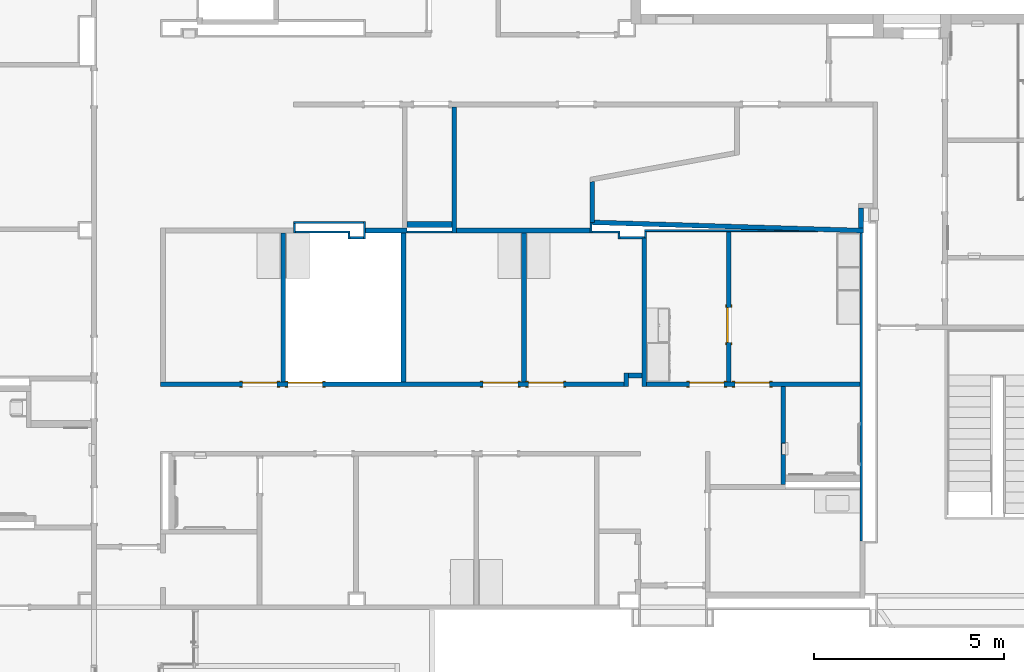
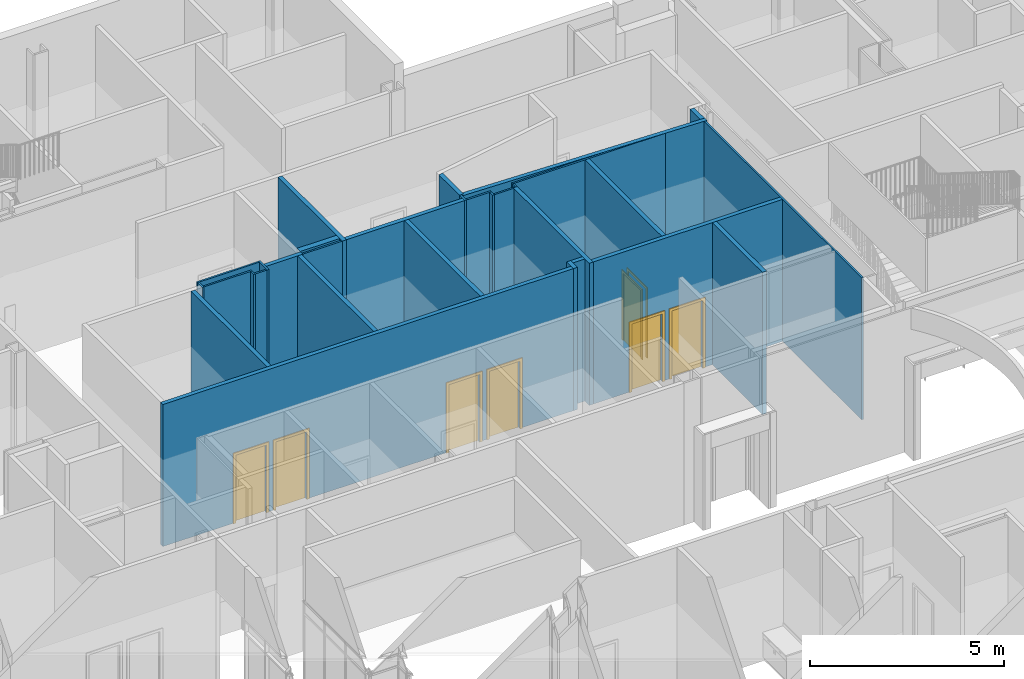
# One storey, part 33 of 82: 31 walls, 7 doors, 8 openings.
"""IFC2X3 building model written with IfcOpenShell, lengths in metres."""

from ifc_helpers import new_model, entity, si_unit, converted_unit, frame, frame_2d, origin, origin_2d_with_axis, place, context, project, spatial, polyline, rectangle, outline, extrude, clip, bounded_halfspace, source, transform, mapped, material, layer, layer_set, layer_usage, type_object, type_shapes, element, fill, save


model = new_model("IFC2X3")

# Units and contexts
model_context = context("Model", 3, precision=1e-09, world=origin())
plan_context = context("Plan", 3, precision=1e-09, world=origin())
ifc_project = project(units=[si_unit("LENGTHUNIT", "METRE"), si_unit("AREAUNIT", "SQUARE_METRE"), si_unit("VOLUMEUNIT", "CUBIC_METRE"), converted_unit("PLANEANGLEUNIT", "DEGREE", entity("IfcRatioMeasure", 0.01745329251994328), si_unit("PLANEANGLEUNIT", "RADIAN"), dimensions=[0, 0, 0, 0, 0, 0, 0]), si_unit("TIMEUNIT", "SECOND")], contexts=[model_context, plan_context])

# Site, building, storey
site_placement = place(None, origin())
site = spatial("IfcSite", under=ifc_project, at=site_placement, Name="Default", CompositionType="ELEMENT")
building_placement = place(site_placement, origin())
building = spatial("IfcBuilding", under=site, at=building_placement, CompositionType="ELEMENT")
storey_placement = place(building_placement, origin())
storey = spatial("IfcBuildingStorey", under=building, at=storey_placement, Name="First Floor", CompositionType="ELEMENT", Elevation=-3.531500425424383e-13)

# Wall, openings, doors
ifc_material_1 = material(Name="Plasterboard")
ifc_layer_1 = layer(ifc_material_1, 0.016)
ifc_material_2 = material(Name="Metal - Stud Layer")
ifc_layer_2 = layer(ifc_material_2, 0.092)
ifc_layer_3 = layer(ifc_material_1, 0.016)
ifc_layer_set_1 = layer_set([ifc_layer_1, ifc_layer_2, ifc_layer_3], Name="Basic Wall:Interior - Partition (92mm Stud)")
ifc_layer_usage_1 = layer_usage(ifc_layer_set_1, "AXIS2", "NEGATIVE", 0.062)
wall_1_placement = place(storey_placement, frame((-26.51400084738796, 40.72199999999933, 0.0), z_axis=(0.0, 0.0, 1.0), x_axis=(-1.0, 0.0, 0.0)))
wall_1 = element("IfcWallStandardCase", 1, at=wall_1_placement, inside=storey, material=ifc_layer_usage_1, Name="Basic Wall:Interior - Partition (92mm Stud)", ObjectType="Basic Wall:Interior - Partition (92mm Stud)", context=model_context, shape_type="SweptSolid", body=[
    extrude(rectangle(XDim=12.20599915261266, YDim=0.1240000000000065, at=frame_2d((6.102999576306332, 0.0), x_axis=(-1.0, 0.0))), origin(), (0.0, 0.0, 1.0), 4.46800000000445),
])
opening_1_placement = place(wall_1_placement, frame((2.511999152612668, 0.06199999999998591, 0.0)))
opening_1 = element("IfcOpeningElement", 2, at=opening_1_placement, cuts=wall_1, Name="M_Single-Flush:0915 x 2134mm:0915 x 2134mm:1", ObjectType="Opening", context=model_context, shape_type="SweptSolid", body=[
    extrude(rectangle(XDim=0.9149999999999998, YDim=2.134, at=frame_2d((1.067, 0.4574999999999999), x_axis=(0.0, -1.0))), frame((0.0, 0.0, 0.0), z_axis=(0.0, -1.0, 0.0), x_axis=(0.0, 0.0, 1.0)), (0.0, 0.0, 1.0), 0.124),
])
opening_2_placement = place(wall_1_placement, frame((3.710999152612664, 0.06199999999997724, 0.0)))
opening_2 = element("IfcOpeningElement", 3, at=opening_2_placement, cuts=wall_1, Name="M_Single-Flush:0915 x 2134mm:0915 x 2134mm:1", ObjectType="Opening", context=model_context, shape_type="SweptSolid", body=[
    extrude(rectangle(XDim=0.9149999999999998, YDim=2.134, at=frame_2d((1.067, 0.4575), x_axis=(0.0, 1.0))), frame((0.0, 0.0, 0.0), z_axis=(0.0, -1.0, 0.0), x_axis=(0.0, 0.0, 1.0)), (0.0, 0.0, 1.0), 0.124),
])
opening_3_placement = place(wall_1_placement, frame((10.05099915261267, 0.06199999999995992, 0.0)))
opening_3 = element("IfcOpeningElement", 4, at=opening_3_placement, cuts=wall_1, Name="M_Single-Flush:0915 x 2134mm:0915 x 2134mm:1", ObjectType="Opening", context=model_context, shape_type="SweptSolid", body=[
    extrude(rectangle(XDim=0.9149999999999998, YDim=2.134, at=frame_2d((1.067, 0.4575), x_axis=(0.0, 1.0))), frame((0.0, 0.0, 0.0), z_axis=(0.0, -1.0, 0.0), x_axis=(0.0, 0.0, 1.0)), (0.0, 0.0, 1.0), 0.124),
])
opening_4_placement = place(wall_1_placement, frame((8.851999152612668, 0.06199999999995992, 0.0)))
opening_4 = element("IfcOpeningElement", 5, at=opening_4_placement, cuts=wall_1, Name="M_Single-Flush:0915 x 2134mm:0915 x 2134mm:1", ObjectType="Opening", context=model_context, shape_type="SweptSolid", body=[
    extrude(rectangle(XDim=0.9149999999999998, YDim=2.134, at=frame_2d((1.067, 0.4574999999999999), x_axis=(0.0, -1.0))), frame((0.0, 0.0, 0.0), z_axis=(0.0, -1.0, 0.0), x_axis=(0.0, 0.0, 1.0)), (0.0, 0.0, 1.0), 0.124),
])
door_style_1 = type_object("IfcDoorStyle", Name="0915 x 2134mm", ConstructionType="NOTDEFINED", OperationType="SINGLE_SWING_RIGHT", ParameterTakesPrecedence=False, Sizeable=False)
shared_shape_1 = source(origin(), model_context, "Body", "SweptSolid", [
    extrude(outline(polyline([(-0.5335, -1.123999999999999), (0.5334999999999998, -1.123999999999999), (0.5334999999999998, 1.086), (0.4574999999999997, 1.086), (0.4574999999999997, -1.048000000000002), (-0.4574999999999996, -1.048000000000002), (-0.4574999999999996, 1.086), (-0.5335, 1.086), (-0.5335, -1.123999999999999)])), frame((0.4575000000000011, 0.1239999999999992, 1.086), z_axis=(0.0, 1.0, 0.0), x_axis=(1.0, 0.0, 0.0)), (0.0, 0.0, 1.0), 0.02499999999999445),
    extrude(outline(polyline([(-1.123999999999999, -0.5334999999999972), (1.085999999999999, -0.5334999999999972), (1.085999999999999, -0.4575000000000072), (-1.048, -0.4575000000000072), (-1.048, 0.4575000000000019), (1.085999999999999, 0.4575000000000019), (1.085999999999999, 0.5335000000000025), (-1.123999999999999, 0.5335000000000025), (-1.123999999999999, -0.5334999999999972)])), frame((0.4575000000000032, -0.02500000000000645, 1.085999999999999), z_axis=(0.0, 1.0, 0.0), x_axis=(0.0, 0.0, -1.0)), (0.0, 0.0, 1.0), 0.02500000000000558),
    extrude(rectangle(XDim=0.051, YDim=0.9149999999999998, at=origin_2d_with_axis()), frame((0.4575000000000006, 0.09849999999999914, 0.0), z_axis=(0.0, 0.0, 1.0), x_axis=(0.0, 1.0, 0.0)), (0.0, 0.0, 1.0), 2.133999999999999),
])
type_shapes(door_style_1, [shared_shape_1])
door_1_placement = place(opening_3_placement, frame((0.0, 0.0, 0.0), z_axis=(0.0, 0.0, 1.0), x_axis=(-1.0, 0.0, 0.0)))
door_1 = element("IfcDoor", 6, at=door_1_placement, inside=storey, type_object=door_style_1, Name="M_Single-Flush:0915 x 2134mm:0915 x 2134mm", ObjectType="0915 x 2134mm", OverallHeight=2.134, OverallWidth=0.9149999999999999, context=model_context, shape_type="MappedRepresentation", body=[
    mapped(shared_shape_1, transform((0.0, 0.0, 0.0), scale=1.0)),
])
fill(opening_3, door_1)
door_2_placement = place(opening_2_placement, frame((0.0, 0.0, 0.0), z_axis=(0.0, 0.0, 1.0), x_axis=(-1.0, 0.0, 0.0)))
door_2 = element("IfcDoor", 7, at=door_2_placement, inside=storey, type_object=door_style_1, Name="M_Single-Flush:0915 x 2134mm:0915 x 2134mm", ObjectType="0915 x 2134mm", OverallHeight=2.134, OverallWidth=0.9149999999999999, context=model_context, shape_type="MappedRepresentation", body=[
    mapped(shared_shape_1, transform((0.0, 0.0, 0.0), scale=1.0)),
])
fill(opening_2, door_2)
door_style_2 = type_object("IfcDoorStyle", Name="0915 x 2134mm", ConstructionType="NOTDEFINED", OperationType="SINGLE_SWING_LEFT", ParameterTakesPrecedence=False, Sizeable=False)
shared_shape_2 = source(origin(), model_context, "Body", "SweptSolid", [
    extrude(outline(polyline([(-0.5335, -1.123999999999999), (0.5334999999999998, -1.123999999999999), (0.5334999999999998, 1.086), (0.4574999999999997, 1.086), (0.4574999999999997, -1.048000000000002), (-0.4574999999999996, -1.048000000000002), (-0.4574999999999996, 1.086), (-0.5335, 1.086), (-0.5335, -1.123999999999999)])), frame((0.4575000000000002, 0.1489999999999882, 1.086), z_axis=(0.0, -1.0, 0.0), x_axis=(-1.0, 0.0, 0.0)), (0.0, 0.0, 1.0), 0.02499999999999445),
    extrude(outline(polyline([(-1.123999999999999, -0.5334999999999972), (1.085999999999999, -0.5334999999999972), (1.085999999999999, -0.4575000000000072), (-1.048, -0.4575000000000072), (-1.048, 0.4575000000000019), (1.085999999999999, 0.4575000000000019), (1.085999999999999, 0.5335000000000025), (-1.123999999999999, 0.5335000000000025), (-1.123999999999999, -0.5334999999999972)])), frame((0.4574999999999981, 0.0, 1.085999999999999), z_axis=(0.0, -1.0, 0.0), x_axis=(0.0, 0.0, -1.0)), (0.0, 0.0, 1.0), 0.02500000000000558),
    extrude(rectangle(XDim=0.9149999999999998, YDim=0.051, at=origin_2d_with_axis()), frame((0.4575000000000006, 0.09849999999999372, 0.0)), (0.0, 0.0, 1.0), 2.133999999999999),
])
type_shapes(door_style_2, [shared_shape_2])
door_3_placement = place(opening_1_placement, frame((0.0, 0.0, 0.0), z_axis=(0.0, 0.0, 1.0), x_axis=(-1.0, 0.0, 0.0)))
door_3 = element("IfcDoor", 8, at=door_3_placement, inside=storey, type_object=door_style_2, Name="M_Single-Flush:0915 x 2134mm:0915 x 2134mm", ObjectType="0915 x 2134mm", OverallHeight=2.134, OverallWidth=0.9149999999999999, context=model_context, shape_type="MappedRepresentation", body=[
    mapped(shared_shape_2, transform((0.0, 0.0, 0.0), scale=1.0)),
])
fill(opening_1, door_3)
door_4_placement = place(opening_4_placement, frame((0.0, 0.0, 0.0), z_axis=(0.0, 0.0, 1.0), x_axis=(-1.0, 0.0, 0.0)))
door_4 = element("IfcDoor", 9, at=door_4_placement, inside=storey, type_object=door_style_2, Name="M_Single-Flush:0915 x 2134mm:0915 x 2134mm", ObjectType="0915 x 2134mm", OverallHeight=2.134, OverallWidth=0.9149999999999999, context=model_context, shape_type="MappedRepresentation", body=[
    mapped(shared_shape_2, transform((0.0, 0.0, 0.0), scale=1.0)),
])
fill(opening_4, door_4)

wall_2_placement = place(storey_placement, frame((-20.2900000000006, 40.72199999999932, 0.0), z_axis=(0.0, 0.0, 1.0), x_axis=(-1.0, 0.0, 0.0)))
wall_2 = element("IfcWallStandardCase", 10, at=wall_2_placement, inside=storey, material=ifc_layer_usage_1, Name="Basic Wall:Interior - Partition (92mm Stud)", ObjectType="Basic Wall:Interior - Partition (92mm Stud)", context=model_context, shape_type="SweptSolid", body=[
    extrude(rectangle(XDim=5.626000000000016, YDim=0.1240000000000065, at=frame_2d((2.813000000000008, 0.0), x_axis=(-1.0, 0.0))), origin(), (0.0, 0.0, 1.0), 4.468000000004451),
])
opening_5_placement = place(wall_2_placement, frame((3.300000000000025, 0.06199999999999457, 0.0)))
opening_5 = element("IfcOpeningElement", 11, at=opening_5_placement, cuts=wall_2, Name="M_Single-Flush:0915 x 2134mm:0915 x 2134mm:1", ObjectType="Opening", context=model_context, shape_type="SweptSolid", body=[
    extrude(rectangle(XDim=0.9149999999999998, YDim=2.134, at=frame_2d((1.067, 0.4574999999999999), x_axis=(0.0, -1.0))), frame((0.0, 0.0, 0.0), z_axis=(0.0, -1.0, 0.0), x_axis=(0.0, 0.0, 1.0)), (0.0, 0.0, 1.0), 0.124),
])
opening_6_placement = place(wall_2_placement, frame((4.499000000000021, 0.06199999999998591, 0.0)))
opening_6 = element("IfcOpeningElement", 12, at=opening_6_placement, cuts=wall_2, Name="M_Single-Flush:0915 x 2134mm:0915 x 2134mm:1", ObjectType="Opening", context=model_context, shape_type="SweptSolid", body=[
    extrude(rectangle(XDim=0.9149999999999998, YDim=2.134, at=frame_2d((1.067, 0.4575), x_axis=(0.0, 1.0))), frame((0.0, 0.0, 0.0), z_axis=(0.0, -1.0, 0.0), x_axis=(0.0, 0.0, 1.0)), (0.0, 0.0, 1.0), 0.124),
])
door_5_placement = place(opening_6_placement, frame((0.0, 0.0, 0.0), z_axis=(0.0, 0.0, 1.0), x_axis=(-1.0, 0.0, 0.0)))
door_5 = element("IfcDoor", 13, at=door_5_placement, inside=storey, type_object=door_style_1, Name="M_Single-Flush:0915 x 2134mm:0915 x 2134mm", ObjectType="0915 x 2134mm", OverallHeight=2.134, OverallWidth=0.9149999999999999, context=model_context, shape_type="MappedRepresentation", body=[
    mapped(shared_shape_1, transform((0.0, 0.0, 0.0), scale=1.0)),
])
fill(opening_6, door_5)
door_6_placement = place(opening_5_placement, frame((0.0, 0.0, 0.0), z_axis=(0.0, 0.0, 1.0), x_axis=(-1.0, 0.0, 0.0)))
door_6 = element("IfcDoor", 14, at=door_6_placement, inside=storey, type_object=door_style_2, Name="M_Single-Flush:0915 x 2134mm:0915 x 2134mm", ObjectType="0915 x 2134mm", OverallHeight=2.134, OverallWidth=0.9149999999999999, context=model_context, shape_type="MappedRepresentation", body=[
    mapped(shared_shape_2, transform((0.0, 0.0, 0.0), scale=1.0)),
])
fill(opening_5, door_6)

# Walls
ifc_layer_4 = layer(ifc_material_2, 0.038)
ifc_layer_5 = layer(ifc_material_1, 0.016)
ifc_layer_set_2 = layer_set([ifc_layer_4, ifc_layer_5], Name="Basic Wall:Interior - Furring (38 mm Stud)")
ifc_layer_usage_2 = layer_usage(ifc_layer_set_2, "AXIS2", "NEGATIVE", 0.027)
wall_3_placement = place(storey_placement, frame((-20.26300000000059, 44.70594269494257, 0.0), z_axis=(0.0, 0.0, 1.0), x_axis=(0.0, -1.0, 0.0)))
element("IfcWallStandardCase", 15, at=wall_3_placement, inside=storey, material=ifc_layer_usage_2, Name="Basic Wall:Interior - Furring (38 mm Stud)", ObjectType="Basic Wall:Interior - Furring (38 mm Stud)", context=model_context, shape_type="SweptSolid", body=[
    extrude(outline(polyline([(8.116942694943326, -0.02700000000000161), (8.116942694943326, 0.02699999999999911), (0.001641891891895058, 0.0269999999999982), (0.0, -0.02700000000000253), (3.921942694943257, -0.02700000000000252), (4.045942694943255, -0.02700000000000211), (6.375942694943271, -0.02700000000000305), (6.559942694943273, -0.02700000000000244), (6.701942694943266, -0.02700000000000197), (6.755942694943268, -0.02700000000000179), (8.116942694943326, -0.02700000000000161)])), origin(), (0.0, 0.0, 1.0), 4.46800000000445),
])
wall_4_placement = place(storey_placement, frame((-27.35311573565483, 44.98272824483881, 0.0), z_axis=(0.0, 0.0, 1.0), x_axis=(0.9995380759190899, -0.03039136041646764, 0.0)))
element("IfcWallStandardCase", 16, at=wall_4_placement, inside=storey, material=ifc_layer_usage_1, Name="Basic Wall:Interior - Partition (92mm Stud)", ObjectType="Basic Wall:Interior - Partition (92mm Stud)", context=model_context, shape_type="SweptSolid", body=[
    extrude(outline(polyline([(7.153304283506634, -0.06200000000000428), (7.149534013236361, 0.06199999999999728), (7.025476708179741, 0.06199999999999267), (0.06626207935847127, 0.06199999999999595), (0.06808992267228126, 0.00188426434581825), (-0.001910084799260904, 0.0008205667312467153), (0.0, -0.06200000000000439), (4.170819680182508, -0.06200000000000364), (5.947640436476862, -0.06200000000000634), (7.06826500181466, -0.06200000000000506), (7.122289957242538, -0.06200000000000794), (7.153304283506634, -0.06200000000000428)])), origin(), (0.0, 0.0, 1.0), 4.468000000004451),
])
wall_5_placement = place(storey_placement, frame((-25.97800000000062, 40.65999999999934, 0.0), z_axis=(0.0, 0.0, 1.0), x_axis=(0.0, 1.0, 0.0)))
element("IfcWallStandardCase", 17, at=wall_5_placement, inside=storey, material=ifc_layer_usage_1, Name="Basic Wall:Interior - Partition (92mm Stud)", ObjectType="Basic Wall:Interior - Partition (92mm Stud)", context=model_context, shape_type="SweptSolid", body=[
    extrude(rectangle(XDim=3.916999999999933, YDim=0.1239999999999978, at=frame_2d((1.958499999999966, 0.0), x_axis=(-1.0, 0.0))), origin(), (0.0, 0.0, 1.0), 4.46800000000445),
])
wall_6_placement = place(storey_placement, frame((-30.92500000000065, 44.76799999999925, 0.0)))
element("IfcWallStandardCase", 18, at=wall_6_placement, inside=storey, material=ifc_layer_usage_1, Name="Basic Wall:Interior - Partition (92mm Stud)", ObjectType="Basic Wall:Interior - Partition (92mm Stud)", context=model_context, shape_type="SweptSolid", body=[
    extrude(rectangle(XDim=3.515999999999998, YDim=0.1240000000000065, at=frame_2d((1.757999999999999, 0.0), x_axis=(-1.0, 0.0))), origin(), (0.0, 0.0, 1.0), 4.46800000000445),
])

# Wall, opening
wall_7_placement = place(storey_placement, frame((-22.31800000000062, 38.07399999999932, 0.0), z_axis=(0.0, 0.0, 1.0), x_axis=(0.0, 1.0, 0.0)))
wall_7 = element("IfcWallStandardCase", 19, at=wall_7_placement, inside=storey, material=ifc_layer_usage_1, Name="Basic Wall:Interior - Partition (92mm Stud)", ObjectType="Basic Wall:Interior - Partition (92mm Stud)", context=model_context, shape_type="SweptSolid", body=[
    extrude(rectangle(XDim=2.58600000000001, YDim=0.1239999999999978, at=frame_2d((1.293000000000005, 0.0), x_axis=(-1.0, 0.0))), origin(), (0.0, 0.0, 1.0), 4.46800000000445),
])
opening_7_placement = place(wall_7_placement, origin())
element("IfcOpeningElement", 20, at=opening_7_placement, cuts=wall_7, ObjectType="Opening", context=model_context, shape_type="SweptSolid", body=[
    extrude(rectangle(XDim=1.362075, YDim=0.2984499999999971, at=origin_2d_with_axis()), frame((0.9411000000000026, -0.1255000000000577, 1.041399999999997), z_axis=(0.0, 1.0, 0.0), x_axis=(0.0, 0.0, -1.0)), (0.0, 0.0, 1.0), 0.1524000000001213),
])

# Walls
wall_8_placement = place(storey_placement, frame((-30.98700000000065, 48.02599999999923, 0.0), z_axis=(0.0, 0.0, 1.0), x_axis=(0.0, -1.0, 0.0)))
element("IfcWallStandardCase", 21, at=wall_8_placement, inside=storey, material=ifc_layer_usage_1, Name="Basic Wall:Interior - Partition (92mm Stud)", ObjectType="Basic Wall:Interior - Partition (92mm Stud)", context=model_context, shape_type="SweptSolid", body=[
    extrude(rectangle(XDim=3.319999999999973, YDim=0.1239999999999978, at=frame_2d((1.659999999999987, 0.0), x_axis=(-1.0, 0.0))), origin(), (0.0, 0.0, 1.0), 4.468000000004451),
])
ifc_layer_usage_3 = layer_usage(ifc_layer_set_2, "AXIS2", "POSITIVE", -0.027)
wall_9_placement = place(storey_placement, frame((-31.04900000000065, 44.73299999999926, 0.0), z_axis=(0.0, 0.0, 1.0), x_axis=(-1.0, 0.0, 0.0)))
element("IfcWallStandardCase", 22, at=wall_9_placement, inside=storey, material=ifc_layer_usage_3, Name="Basic Wall:Interior - Furring (38 mm Stud)", ObjectType="Basic Wall:Interior - Furring (38 mm Stud)", context=model_context, shape_type="SweptSolid", body=[
    extrude(rectangle(XDim=1.176000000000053, YDim=0.05400000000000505, at=frame_2d((0.5880000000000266, 0.0), x_axis=(-1.0, 0.0))), origin(), (0.0, 0.0, 1.0), 4.46800000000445),
])
wall_10_placement = place(storey_placement, frame((-33.32000000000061, 44.76799999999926, 0.0)))
element("IfcWallStandardCase", 23, at=wall_10_placement, inside=storey, material=ifc_layer_usage_1, Name="Basic Wall:Interior - Partition (92mm Stud)", ObjectType="Basic Wall:Interior - Partition (92mm Stud)", context=model_context, shape_type="SweptSolid", body=[
    extrude(rectangle(XDim=1.094999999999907, YDim=0.1240000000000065, at=frame_2d((0.5474999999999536, 0.0), x_axis=(-1.0, 0.0))), origin(), (0.0, 0.0, 1.0), 4.468000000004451),
])
wall_11_placement = place(storey_placement, frame((-27.34700000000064, 46.06502903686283, 0.0), z_axis=(0.0, 0.0, 1.0), x_axis=(0.0, -1.0, 0.0)))
element("IfcWallStandardCase", 24, at=wall_11_placement, inside=storey, material=ifc_layer_usage_1, Name="Basic Wall:Interior - Partition (92mm Stud)", ObjectType="Basic Wall:Interior - Partition (92mm Stud)", context=model_context, shape_type="SweptSolid", body=[
    extrude(outline(polyline([(1.082486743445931, -0.06200000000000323), (1.082486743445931, 0.0619999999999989), (1.022343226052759, 0.0619999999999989), (0.0, 0.0619999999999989), (0.02278215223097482, -0.06200000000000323), (1.082486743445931, -0.06200000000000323)])), origin(), (0.0, 0.0, 1.0), 4.468000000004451),
])
wall_12_placement = place(storey_placement, frame((-27.38200000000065, 44.98360648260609, 0.0), z_axis=(0.0, 0.0, 1.0), x_axis=(0.0, -1.0, 0.0)))
element("IfcWallStandardCase", 25, at=wall_12_placement, inside=storey, material=ifc_layer_usage_2, Name="Basic Wall:Interior - Furring (38 mm Stud)", ObjectType="Basic Wall:Interior - Furring (38 mm Stud)", context=model_context, shape_type="SweptSolid", body=[
    extrude(rectangle(XDim=0.277606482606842, YDim=0.05399999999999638, at=frame_2d((0.138803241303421, 0.0), x_axis=(-1.0, 0.0))), origin(), (0.0, 0.0, 1.0), 4.468000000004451),
])
wall_13_placement = place(storey_placement, frame((-25.94300000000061, 44.57699999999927, 0.0), z_axis=(0.0, 0.0, 1.0), x_axis=(0.0, 1.0, 0.0)))
element("IfcWallStandardCase", 26, at=wall_13_placement, inside=storey, material=ifc_layer_usage_2, Name="Basic Wall:Interior - Furring (38 mm Stud)", ObjectType="Basic Wall:Interior - Furring (38 mm Stud)", context=model_context, shape_type="SweptSolid", body=[
    extrude(rectangle(XDim=0.1630000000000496, YDim=0.05399999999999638, at=frame_2d((0.08150000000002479, 0.0), x_axis=(-1.0, 0.0))), origin(), (0.0, 0.0, 1.0), 4.468000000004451),
])
wall_14_placement = place(storey_placement, frame((-20.26700000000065, 45.35999999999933, 0.0), z_axis=(0.0, 0.0, 1.0), x_axis=(0.0, -1.0, 0.0)))
element("IfcWallStandardCase", 27, at=wall_14_placement, inside=storey, material=ifc_layer_usage_1, Name="Basic Wall:Interior - Partition (92mm Stud)", ObjectType="Basic Wall:Interior - Partition (92mm Stud)", context=model_context, shape_type="SweptSolid", body=[
    extrude(outline(polyline([(0.5288141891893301, -0.06200000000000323), (0.532584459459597, 0.0619999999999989), (0.0, 0.0619999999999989), (0.0, -0.06200000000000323), (0.5288141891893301, -0.06200000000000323)])), origin(), (0.0, 0.0, 1.0), 4.46800000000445),
])
wall_15_placement = place(storey_placement, frame((-21.41010692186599, 44.7669999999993, 0.0), z_axis=(0.0, 0.0, 1.0), x_axis=(-1.0, 0.0, 0.0)))
element("IfcWallStandardCase", 28, at=wall_15_placement, inside=storey, material=ifc_layer_usage_3, Name="Basic Wall:Interior - Furring (38 mm Stud)", ObjectType="Basic Wall:Interior - Furring (38 mm Stud)", context=model_context, shape_type="Clipping", body=[
    clip(extrude(rectangle(XDim=4.559893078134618, YDim=0.05400000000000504, at=frame_2d((2.279946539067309, 0.0), x_axis=(-1.0, 0.0))), origin(), (0.0, 0.0, 1.0), 4.46800000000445), bounded_halfspace(frame((1.775999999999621, -0.02699999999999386, 0.0), z_axis=(0.0303913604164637, 0.99953807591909, 0.0), x_axis=(-0.99953807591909, 0.0303913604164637, 0.0)), True, frame((1.775999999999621, -0.02699999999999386, 0.0), z_axis=(0.0303913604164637, 0.99953807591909, 0.0), x_axis=(-0.99953807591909, 0.0303913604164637, 0.0)), polyline([(0.0, 0.0), (1.776820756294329, 0.0), (1.776820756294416, 4.46800000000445), (0.0, 4.46800000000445), (0.0, 0.0)]))),
])
wall_16_placement = place(storey_placement, frame((-26.61600000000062, 44.57699999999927, 0.0)))
element("IfcWallStandardCase", 29, at=wall_16_placement, inside=storey, material=ifc_layer_usage_2, Name="Basic Wall:Interior - Furring (38 mm Stud)", ObjectType="Basic Wall:Interior - Furring (38 mm Stud)", context=model_context, shape_type="SweptSolid", body=[
    extrude(outline(polyline([(0.575999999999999, -0.02699999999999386), (0.575999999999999, 0.0), (0.6460000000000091, 0.0), (0.6460000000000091, 0.02700000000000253), (0.0, 0.02700000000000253), (0.0, -0.02699999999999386), (0.575999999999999, -0.02699999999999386)])), origin(), (0.0, 0.0, 1.0), 4.468000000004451),
])
wall_17_placement = place(storey_placement, frame((-35.18800000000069, 44.95599999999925, 0.0), z_axis=(0.0, 0.0, 1.0), x_axis=(0.0, -1.0, 0.0)))
element("IfcWallStandardCase", 30, at=wall_17_placement, inside=storey, material=ifc_layer_usage_2, Name="Basic Wall:Interior - Furring (38 mm Stud)", ObjectType="Basic Wall:Interior - Furring (38 mm Stud)", context=model_context, shape_type="SweptSolid", body=[
    extrude(rectangle(XDim=0.2499999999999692, YDim=0.05399999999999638, at=frame_2d((0.1249999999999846, 0.0), x_axis=(-1.0, 0.0))), origin(), (0.0, 0.0, 1.0), 4.46800000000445),
])
wall_18_placement = place(storey_placement, frame((-35.16100000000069, 44.73299999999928, 0.0)))
element("IfcWallStandardCase", 31, at=wall_18_placement, inside=storey, material=ifc_layer_usage_2, Name="Basic Wall:Interior - Furring (38 mm Stud)", ObjectType="Basic Wall:Interior - Furring (38 mm Stud)", context=model_context, shape_type="SweptSolid", body=[
    extrude(rectangle(XDim=1.435000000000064, YDim=0.05400000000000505, at=frame_2d((0.7175000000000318, 0.0), x_axis=(-1.0, 0.0))), origin(), (0.0, 0.0, 1.0), 4.46800000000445),
])
wall_19_placement = place(storey_placement, frame((-32.31800000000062, 40.78399999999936, 0.0), z_axis=(0.0, 0.0, 1.0), x_axis=(0.0, 1.0, 0.0)))
element("IfcWallStandardCase", 32, at=wall_19_placement, inside=storey, material=ifc_layer_usage_1, Name="Basic Wall:Interior - Partition (92mm Stud)", ObjectType="Basic Wall:Interior - Partition (92mm Stud)", context=model_context, shape_type="SweptSolid", body=[
    extrude(rectangle(XDim=3.921999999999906, YDim=0.1239999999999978, at=frame_2d((1.960999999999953, 0.0), x_axis=(-1.0, 0.0))), origin(), (0.0, 0.0, 1.0), 4.46800000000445),
])
wall_20_placement = place(storey_placement, frame((-33.34700000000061, 44.54999999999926, 0.0), z_axis=(0.0, 0.0, 1.0), x_axis=(0.0, 1.0, 0.0)))
element("IfcWallStandardCase", 33, at=wall_20_placement, inside=storey, material=ifc_layer_usage_2, Name="Basic Wall:Interior - Furring (38 mm Stud)", ObjectType="Basic Wall:Interior - Furring (38 mm Stud)", context=model_context, shape_type="SweptSolid", body=[
    extrude(rectangle(XDim=0.459999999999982, YDim=0.05399999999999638, at=frame_2d((0.229999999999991, 0.0), x_axis=(-1.0, 0.0))), origin(), (0.0, 0.0, 1.0), 4.468000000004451),
])

# Wall, opening, door
wall_21_placement = place(storey_placement, frame((-23.75200000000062, 44.73999999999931, 0.0), z_axis=(0.0, 0.0, 1.0), x_axis=(0.0, -1.0, 0.0)))
wall_21 = element("IfcWallStandardCase", 34, at=wall_21_placement, inside=storey, material=ifc_layer_usage_1, Name="Basic Wall:Interior - Partition (92mm Stud)", ObjectType="Basic Wall:Interior - Partition (92mm Stud)", context=model_context, shape_type="SweptSolid", body=[
    extrude(rectangle(XDim=3.955999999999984, YDim=0.1239999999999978, at=frame_2d((1.977999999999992, 0.0), x_axis=(-1.0, 0.0))), origin(), (0.0, 0.0, 1.0), 4.46800000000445),
])
opening_8_placement = place(wall_21_placement, frame((2.915999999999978, 0.06199999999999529, 0.0)))
opening_8 = element("IfcOpeningElement", 35, at=opening_8_placement, cuts=wall_21, Name="M_Single-Flush:0915 x 2134mm:0915 x 2134mm:1", ObjectType="Opening", context=model_context, shape_type="SweptSolid", body=[
    extrude(rectangle(XDim=0.9149999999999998, YDim=2.134, at=frame_2d((1.067, 0.4574999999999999), x_axis=(0.0, -1.0))), frame((0.0, 0.0, 0.0), z_axis=(0.0, -1.0, 0.0), x_axis=(0.0, 0.0, 1.0)), (0.0, 0.0, 1.0), 0.124),
])
door_7_placement = place(opening_8_placement, frame((0.0, 0.0, 0.0), z_axis=(0.0, 0.0, 1.0), x_axis=(-1.0, 0.0, 0.0)))
door_7 = element("IfcDoor", 36, at=door_7_placement, inside=storey, type_object=door_style_2, Name="M_Single-Flush:0915 x 2134mm:0915 x 2134mm", ObjectType="0915 x 2134mm", OverallHeight=2.134, OverallWidth=0.9149999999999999, context=model_context, shape_type="MappedRepresentation", body=[
    mapped(shared_shape_2, transform((0.0, 0.0, 0.0), scale=1.0)),
])
fill(opening_8, door_7)

# Walls
wall_22_placement = place(storey_placement, frame((-33.37400000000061, 44.98299999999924, 0.0), z_axis=(0.0, 0.0, 1.0), x_axis=(-1.0, 0.0, 0.0)))
element("IfcWallStandardCase", 37, at=wall_22_placement, inside=storey, material=ifc_layer_usage_2, Name="Basic Wall:Interior - Furring (38 mm Stud)", ObjectType="Basic Wall:Interior - Furring (38 mm Stud)", context=model_context, shape_type="SweptSolid", body=[
    extrude(rectangle(XDim=1.841000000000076, YDim=0.05400000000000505, at=frame_2d((0.9205000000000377, 0.0), x_axis=(-1.0, 0.0))), origin(), (0.0, 0.0, 1.0), 4.46800000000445),
])
wall_23_placement = place(storey_placement, frame((-27.35500000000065, 44.73299999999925, 0.0)))
element("IfcWallStandardCase", 38, at=wall_23_placement, inside=storey, material=ifc_layer_usage_2, Name="Basic Wall:Interior - Furring (38 mm Stud)", ObjectType="Basic Wall:Interior - Furring (38 mm Stud)", context=model_context, shape_type="SweptSolid", body=[
    extrude(rectangle(XDim=0.7390000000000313, YDim=0.05400000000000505, at=frame_2d((0.3695000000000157, 0.0), x_axis=(-1.0, 0.0))), origin(), (0.0, 0.0, 1.0), 4.46800000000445),
])
wall_24_placement = place(storey_placement, frame((-26.04000000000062, 40.94699955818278, 0.0), z_axis=(0.0, 0.0, 1.0), x_axis=(-1.0, 0.0, 0.0)))
element("IfcWallStandardCase", 39, at=wall_24_placement, inside=storey, material=ifc_layer_usage_1, Name="Basic Wall:Interior - Partition (92mm Stud)", ObjectType="Basic Wall:Interior - Partition (92mm Stud)", context=model_context, shape_type="SweptSolid", body=[
    extrude(rectangle(XDim=0.3500008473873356, YDim=0.1240000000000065, at=frame_2d((0.1750004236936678, 0.0), x_axis=(-1.0, 0.0))), origin(), (0.0, 0.0, 1.0), 4.46800000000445),
])
wall_25_placement = place(storey_placement, frame((-26.45200084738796, 41.00899955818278, 0.0), z_axis=(0.0, 0.0, 1.0), x_axis=(0.0, -1.0, 0.0)))
element("IfcWallStandardCase", 40, at=wall_25_placement, inside=storey, material=ifc_layer_usage_1, Name="Basic Wall:Interior - Partition (92mm Stud)", ObjectType="Basic Wall:Interior - Partition (92mm Stud)", context=model_context, shape_type="SweptSolid", body=[
    extrude(rectangle(XDim=0.3489995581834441, YDim=0.1239999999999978, at=frame_2d((0.1744997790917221, 0.0), x_axis=(-1.0, 0.0))), origin(), (0.0, 0.0, 1.0), 4.468000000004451),
])
for number, where, z_axis, x_axis, name in (
    (41, (-29.14800000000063, 40.78399999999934, 0.0), (0.0, 0.0, 1.0), (0.0, 1.0, 0.0), "Basic Wall:Interior - Partition (92mm Stud)"),
    (42, (-35.48800000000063, 40.78399999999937, 0.0), (0.0, 0.0, 1.0), (0.0, 1.0, 0.0), "Basic Wall:Interior - Partition (92mm Stud)"),
):
    element("IfcWallStandardCase", number, at=place(storey_placement, frame(where, z_axis=z_axis, x_axis=x_axis)), inside=storey, material=ifc_layer_usage_1, Name=name, ObjectType="Basic Wall:Interior - Partition (92mm Stud)", context=model_context, shape_type="SweptSolid", body=[
        extrude(rectangle(XDim=3.921999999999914, YDim=0.1239999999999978, at=frame_2d((1.960999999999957, 0.0), x_axis=(-1.0, 0.0))), origin(), (0.0, 0.0, 1.0), 4.46800000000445),
    ])
wall_26_placement = place(storey_placement, frame((-26.64300000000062, 44.70599999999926, 0.0), z_axis=(0.0, 0.0, 1.0), x_axis=(0.0, -1.0, 0.0)))
element("IfcWallStandardCase", 43, at=wall_26_placement, inside=storey, material=ifc_layer_usage_2, Name="Basic Wall:Interior - Furring (38 mm Stud)", ObjectType="Basic Wall:Interior - Furring (38 mm Stud)", context=model_context, shape_type="SweptSolid", body=[
    extrude(rectangle(XDim=0.1559999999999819, YDim=0.05399999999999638, at=frame_2d((0.07799999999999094, 0.0), x_axis=(-1.0, 0.0))), origin(), (0.0, 0.0, 1.0), 4.46800000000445),
])
wall_27_placement = place(storey_placement, frame((-33.72600000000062, 44.57699999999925, 0.0)))
element("IfcWallStandardCase", 44, at=wall_27_placement, inside=storey, material=ifc_layer_usage_2, Name="Basic Wall:Interior - Furring (38 mm Stud)", ObjectType="Basic Wall:Interior - Furring (38 mm Stud)", context=model_context, shape_type="SweptSolid", body=[
    extrude(rectangle(XDim=0.352000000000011, YDim=0.05400000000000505, at=frame_2d((0.1760000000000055, 0.0), x_axis=(-1.0, 0.0))), origin(), (0.0, 0.0, 1.0), 4.46800000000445),
])
wall_28_placement = place(storey_placement, frame((-33.75300000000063, 44.70599999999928, 0.0), z_axis=(0.0, 0.0, 1.0), x_axis=(0.0, -1.0, 0.0)))
element("IfcWallStandardCase", 45, at=wall_28_placement, inside=storey, material=ifc_layer_usage_2, Name="Basic Wall:Interior - Furring (38 mm Stud)", ObjectType="Basic Wall:Interior - Furring (38 mm Stud)", context=model_context, shape_type="SweptSolid", body=[
    extrude(rectangle(XDim=0.1560000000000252, YDim=0.05399999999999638, at=frame_2d((0.07800000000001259, 0.0), x_axis=(-1.0, 0.0))), origin(), (0.0, 0.0, 1.0), 4.46800000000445),
])
ifc_layer_6 = layer(ifc_material_2, 0.152)
ifc_layer_7 = layer(ifc_material_1, 0.016)
ifc_layer_set_3 = layer_set([ifc_layer_6, ifc_layer_7], Name="Basic Wall:Interior - Furring (152 mm Stud)")
ifc_layer_usage_4 = layer_usage(ifc_layer_set_3, "AXIS2", "POSITIVE", -0.08399999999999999)
wall_29_placement = place(storey_placement, frame((-32.22500000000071, 44.92599999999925, 0.0)))
element("IfcWallStandardCase", 46, at=wall_29_placement, inside=storey, material=ifc_layer_usage_4, Name="Basic Wall:Interior - Furring (152 mm Stud)", ObjectType="Basic Wall:Interior - Furring (152 mm Stud)", context=model_context, shape_type="SweptSolid", body=[
    extrude(rectangle(XDim=1.176000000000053, YDim=0.1679999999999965, at=frame_2d((0.5880000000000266, 0.0), x_axis=(-1.0, 0.0))), origin(), (0.0, 0.0, 1.0), 4.46800000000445),
])

save(model, "model.ifc")
